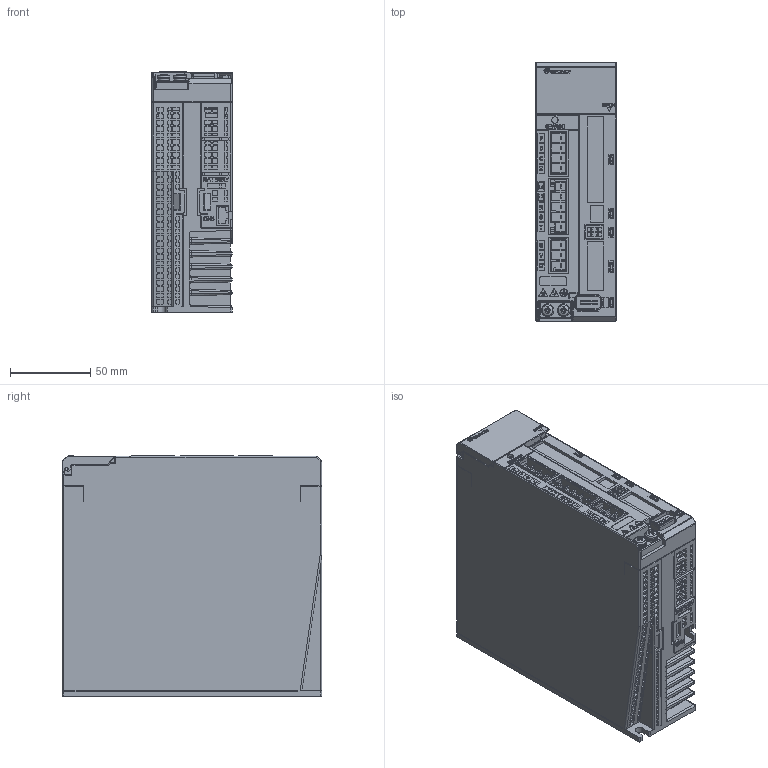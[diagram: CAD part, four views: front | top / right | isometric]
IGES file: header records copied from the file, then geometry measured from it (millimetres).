
Global section: file name: HNo Iges File Name specified; native system: AutoDesk Inventor R12.0; preprocessor: AutoDesk Inventor Iges Exporter R12.0; author: No Author specified; organization: No Organization specified; date: 20210415.152156; units: millimetre
Bounding box: 50 x 162.01 x 150.3 mm (x, y, z)
Volume: 1047944.8 mm3; surface area: 150315.7 mm2
Topology: 2 solids, 2 shells, 7327 faces, 20805 edges, 13761 vertices
Faces by surface type: plane 5961, revolution 725, cylinder 367, bspline 147, sphere 65, cone 35, torus 27
Full cylindrical faces by diameter (mm): 1.267 x4, 2 x2, 3.4 x4, 3.621 x2, 4 x2, 4.33 x1, 8 x2
